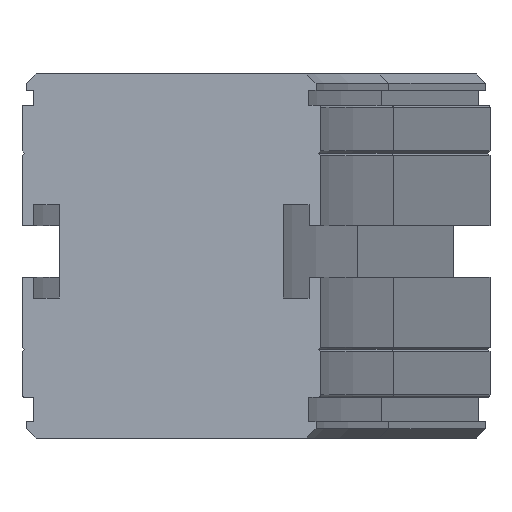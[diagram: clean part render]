
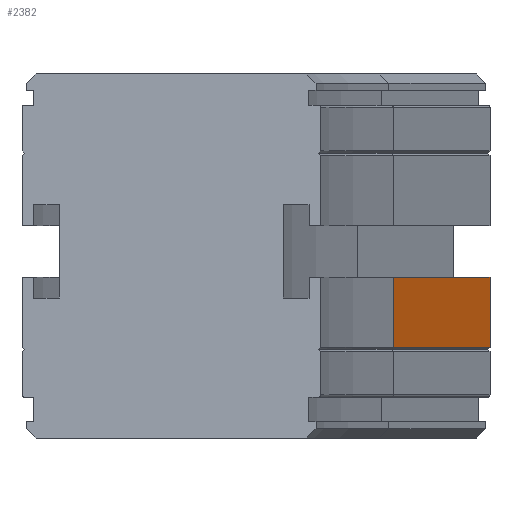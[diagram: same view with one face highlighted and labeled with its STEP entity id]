
A CAD part, left-side view. The second image highlights one B-rep face of the part: STEP entity #2382.
In plain terms, the highlighted planar face has unit normal (-0.259, -0.966, 0).
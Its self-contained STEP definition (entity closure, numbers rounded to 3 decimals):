
#2326=CARTESIAN_POINT('',(275.554,-68.277,-58.5));
#2327=VERTEX_POINT('',#2326);
#2334=CARTESIAN_POINT('',(198.28,-47.572,-58.5));
#2335=VERTEX_POINT('',#2334);
#2336=CARTESIAN_POINT('',(198.28,-47.572,-58.5));
#2337=DIRECTION('',(0.966,-0.259,0.0));
#2338=VECTOR('',#2337,80.);
#2339=LINE('',#2336,#2338);
#2340=EDGE_CURVE('',#2335,#2327,#2339,.T.);
#2352=CARTESIAN_POINT('',(198.28,-47.572,-58.5));
#2353=DIRECTION('',(-0.259,-0.966,0.));
#2354=DIRECTION('',(0.0,0.0,-1.0));
#2355=AXIS2_PLACEMENT_3D('',#2352,#2353,#2354);
#2356=PLANE('',#2355);
#2357=CARTESIAN_POINT('',(275.554,-68.277,-43.5));
#2358=VERTEX_POINT('',#2357);
#2359=CARTESIAN_POINT('',(275.554,-68.277,-58.5));
#2360=DIRECTION('',(0.0,0.0,1.0));
#2361=VECTOR('',#2360,15.);
#2362=LINE('',#2359,#2361);
#2363=EDGE_CURVE('',#2327,#2358,#2362,.T.);
#2364=ORIENTED_EDGE('',*,*,#2363,.T.);
#2365=CARTESIAN_POINT('',(198.28,-47.572,-43.5));
#2366=VERTEX_POINT('',#2365);
#2367=CARTESIAN_POINT('',(198.28,-47.572,-43.5));
#2368=DIRECTION('',(0.966,-0.259,0.0));
#2369=VECTOR('',#2368,80.);
#2370=LINE('',#2367,#2369);
#2371=EDGE_CURVE('',#2366,#2358,#2370,.T.);
#2372=ORIENTED_EDGE('',*,*,#2371,.F.);
#2373=CARTESIAN_POINT('',(198.28,-47.572,-58.5));
#2374=DIRECTION('',(0.0,0.0,1.0));
#2375=VECTOR('',#2374,15.);
#2376=LINE('',#2373,#2375);
#2377=EDGE_CURVE('',#2335,#2366,#2376,.T.);
#2378=ORIENTED_EDGE('',*,*,#2377,.F.);
#2379=ORIENTED_EDGE('',*,*,#2340,.T.);
#2380=EDGE_LOOP('',(#2364,#2372,#2378,#2379));
#2381=FACE_OUTER_BOUND('',#2380,.T.);
#2382=ADVANCED_FACE('',(#2381),#2356,.T.);
